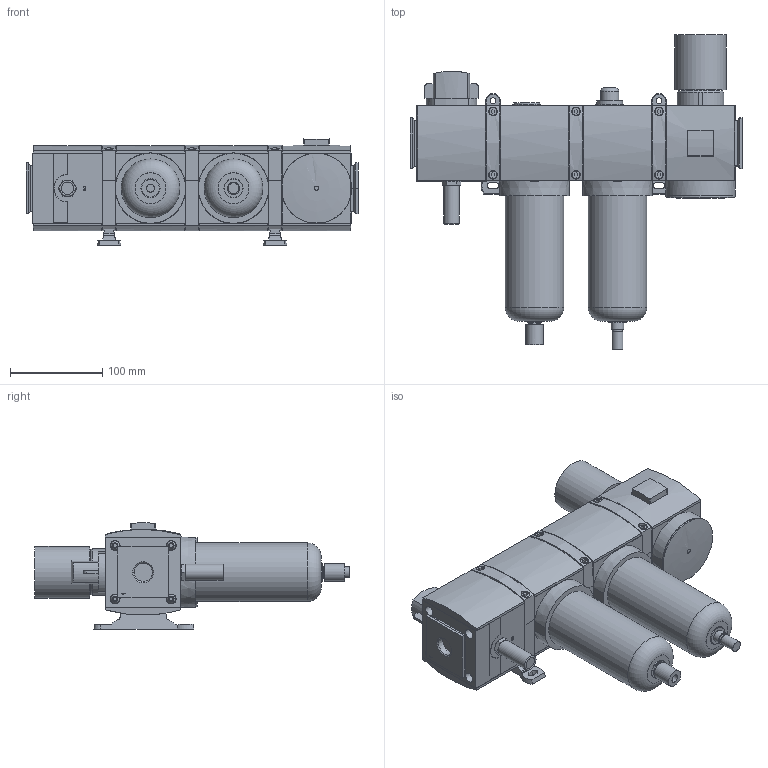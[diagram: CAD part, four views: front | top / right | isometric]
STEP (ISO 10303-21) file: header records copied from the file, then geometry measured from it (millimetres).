
FILE_DESCRIPTION( ( 'STEP AP214' ), '1' );
FILE_NAME( 'p:/temp/worker_230/temp/exporttempdir_5812_386_NmLaQ/format_0/07372020-200218_gen_22355.stp', '2020-02-07T19:37:20', ( '' ), ( '' ), ' ', 'PARTsolutions', ' ' );
FILE_SCHEMA( ( 'AUTOMOTIVE_DESIGN { 1 0 10303 214 1 1 1 1 }' ) );
Length unit declared in the file: millimetre
Products named in the file (20): 07372020-200218_gen_22355; _440562-004-004-F(L); _439489-001-0; _437742 KNOB-100_653; _653-M3MN; _440561-004-004-F(L); _G653ASLA0B00A00_LS; _439498-010-F(L); _439851-002; _507439-006-P; _653-440512-002; _G653ASLA0A00A00_LS; _439851-001; _653-501862-002; _439488-010-F(L); _439489-002-H; _653-438047-009; _503493-001; _510722-001-STANDARD_653; _503402-001
Assembly tree (28 placements, depth 2):
  07372020-200218_gen_22355
    _440562-004-004-F(L)
    _439489-001-0  x7
    _437742 KNOB-100_653
    _653-M3MN
    _440561-004-004-F(L)
    _G653ASLA0B00A00_LS  x2
    _439498-010-F(L)  x2
    _439851-002
    _507439-006-P  x2
    _653-440512-002
    _G653ASLA0A00A00_LS
    _439851-001
    _653-501862-002
    _439488-010-F(L)
    _439489-002-H
    _653-438047-009
    _503493-001
    _510722-001-STANDARD_653
    _503402-001
Bounding box: 360 x 340.9 x 115.36 mm (x, y, z)
Volume: 3873778.1 mm3; surface area: 514024.9 mm2
Topology: 28 solids, 28 shells, 1339 faces, 3253 edges, 2092 vertices
Faces by surface type: plane 935, cylinder 261, cone 103, torus 33, sphere 6, bspline 1
Full cylindrical faces by diameter (mm): 1.7 x2, 2.8 x2, 3 x2, 5.85 x4, 6.3 x4, 6.5 x2, 8.5 x6, 8.6 x1, 10 x4, 10.4 x1, 10.5 x1, 10.8 x4, 11.671 x1, 12 x4, 12.309 x1, 12.985 x1, 13.5 x1, 15.1 x1, 16.105 x1, 17.3 x1, 19 x1, 19.847 x1, 20 x1, 21.6 x1, 22.7 x2, 28 x1, 29.5 x1, 30 x2, 33.5 x2, 43 x1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
Entity records: 40632 total; most frequent: CARTESIAN_POINT 6167, DIRECTION 5336, ORIENTED_EDGE 4962, EDGE_CURVE 2481, AXIS2_PLACEMENT_3D 1817, LINE 1702, VECTOR 1702, VERTEX_POINT 1677
